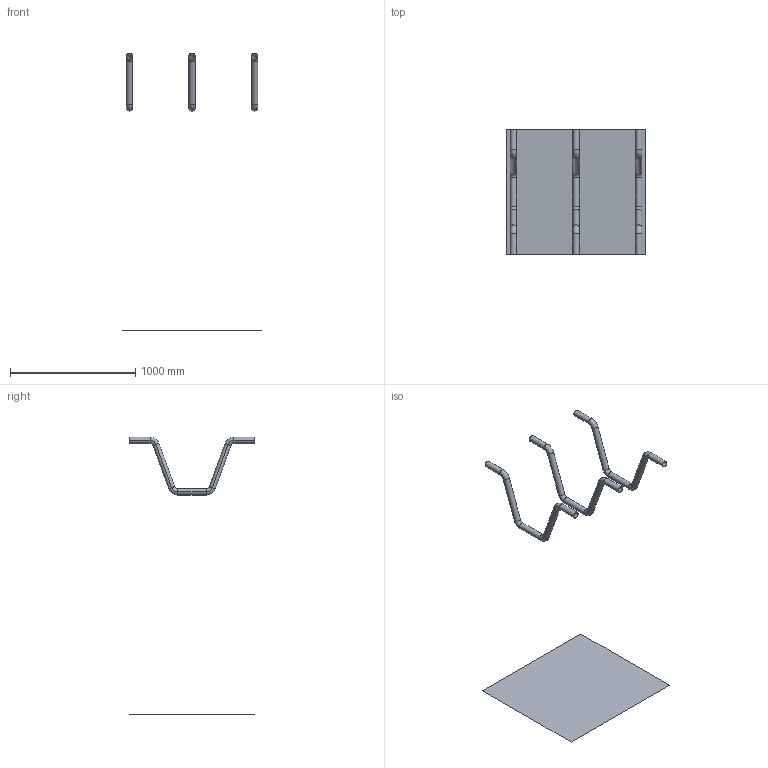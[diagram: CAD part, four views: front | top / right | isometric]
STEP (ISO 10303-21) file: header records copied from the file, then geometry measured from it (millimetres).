
FILE_DESCRIPTION(('CATIA V5 STEP Exchange'),'2;1');
FILE_NAME('C:\_Andres\UNIVERSIDAD\IQS\ASIGNATURAS\DAO\EXF\EXF-16172c\2inicio\Espinel_Roig_Ej08_v11.stp','2017-03-05T21:54:50+00:00',('none'),('none'),'CATIA Version 5-6 Release 2014 SP1 HF18','CATIA V5 STEP AP203','none');
FILE_SCHEMA(('CONFIG_CONTROL_DESIGN'));
Length unit declared in the file: millimetre
Products named in the file (1): Espinel_Roig_Ej08_v11
Bounding box: 1110 x 1000 x 2214 mm (x, y, z)
Surface area: 1835417 mm2 (no closed solid volume)
Topology: 0 solids, 4 shells, 55 faces, 118 edges, 64 vertices
Faces by surface type: cylinder 30, torus 24, plane 1
Entity records: 1283 total; most frequent: ORIENTED_EDGE 220, CARTESIAN_POINT 208, DIRECTION 168, EDGE_CURVE 118, AXIS2_PLACEMENT_3D 110, CIRCLE 84, VERTEX_POINT 64, ADVANCED_FACE 55
